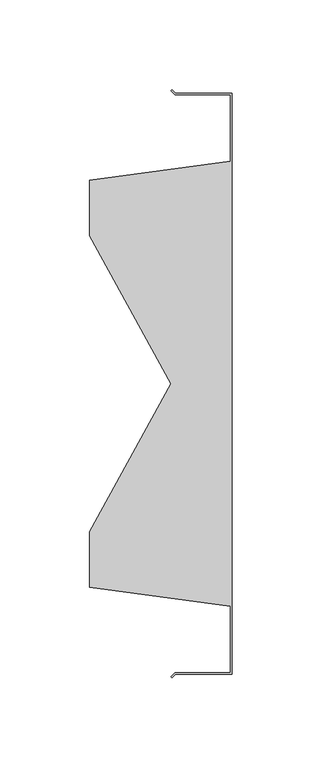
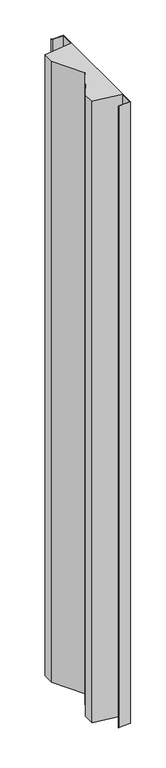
"""IFC4 building model written with IfcOpenShell, lengths in millimetres: proxy geometry, AERO^TABLE 5_54120 CTR TROUGH-MOD TROUGH."""

from ifc_helpers import new_model, si_unit, origin, origin_with_axes, place, context, project, spatial, polyline, outline, extrude, source, transform, mapped, element, save


def generic_models_3069075b(model_context):
    return source(origin(), model_context, "Body", "SweptSolid", [
        extrude(outline(polyline([(79.375, 323.8373), (79.375, 0.0), (47.8663, 0.0), (46.0375, -1.8288), (45.3898, -1.1811), (47.4853, 0.9144), (78.4606, 0.9144), (78.4606, 38.0864699), (0.0, 48.5125072), (0.0, 79.3686499), (45.4025, 161.9186499), (0.0, 244.4686499), (0.0, 275.3247917), (78.4606, 285.7508301), (78.4606, 322.9229), (47.4853, 322.9229), (45.3898, 325.0184), (46.0375, 325.6661), (47.8663, 323.8373), (79.375, 323.8373)])), origin_with_axes(), (0.0, 0.0, 1.0), 1828.8),
    ])


if __name__ == "__main__":
    model = new_model("IFC4")
    model_context = context("Model", 3, world=origin())
    ifc_project = project(units=[si_unit("LENGTHUNIT", "METRE", prefix="MILLI")], contexts=[model_context])
    site = spatial("IfcSite", under=ifc_project)
    building = spatial("IfcBuilding", under=site)
    placement = place(None, origin())
    generic_models_shape = generic_models_3069075b(model_context)
    element("IfcBuildingElementProxy", 1, Name="AERO^TABLE 5_54120 CTR TROUGH-MOD TROUGH", ObjectType="AERO^TABLE 5_54120 CTR TROUGH-MOD TROUGH", at=placement, inside=building, context=model_context, shape_type="MappedRepresentation", body=[
        mapped(generic_models_shape, transform((0.0, 0.0, 0.0), x_axis=(1.0, 0.0, 0.0), y_axis=(0.0, 1.0, 0.0), z_axis=(0.0, 0.0, 1.0))),
    ])
    save(model, "model.ifc")
